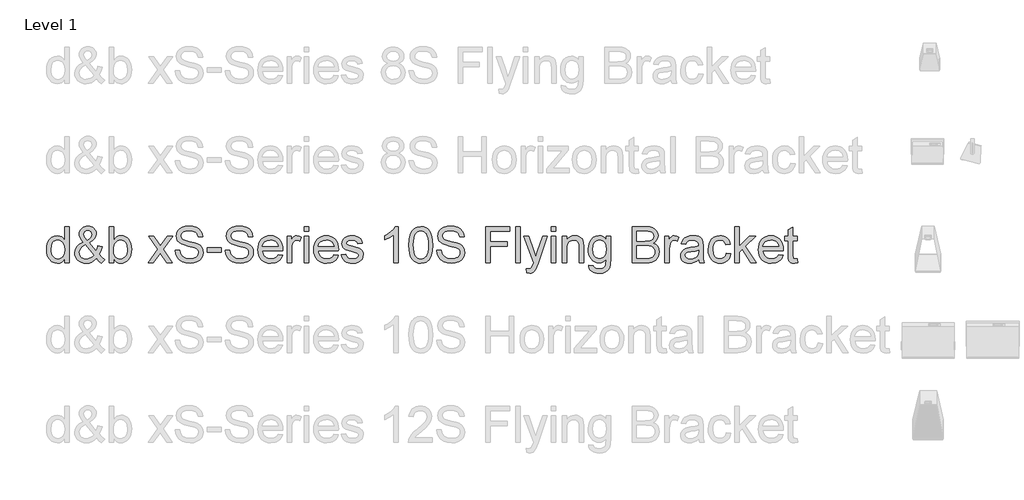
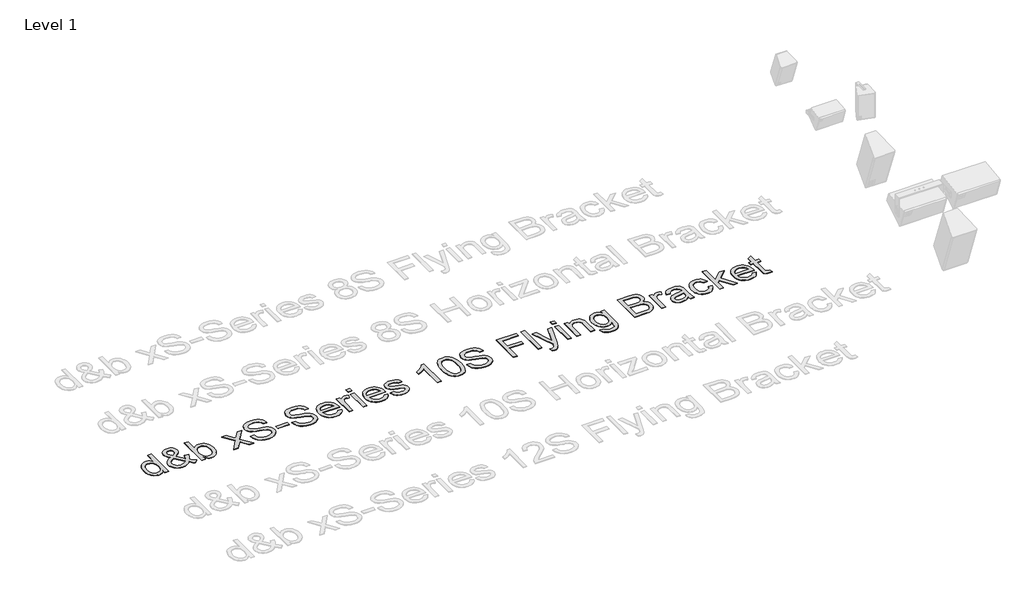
# One storey, part 37 of 55: 1 proxy.
"""IFC4 building model written with IfcOpenShell, lengths in millimetres."""

from ifc_helpers import new_model, si_unit, origin, origin_with_axes, place, context, project, spatial, polyline, outline, extrude, element, save

model = new_model("IFC4")

# Units and contexts
model_context = context("Model", 3, world=origin())
ifc_project = project(units=[si_unit("LENGTHUNIT", "METRE", prefix="MILLI")], contexts=[model_context])

# Site, building, storey
site = spatial("IfcSite", under=ifc_project)
building = spatial("IfcBuilding", under=site)
storey = spatial("IfcBuildingStorey", under=building, Name="Level 1", Elevation=0.0)

# Proxy
placement = place(None, origin())
element("IfcBuildingElementProxy", 1, Name="400mm Arial", ObjectType="400mm Arial", at=placement, inside=storey, context=model_context, shape_type="SweptSolid", body=[
    extrude(outline(polyline([(-20879.8211974, 351.3054836), (-20879.8211974, 398.6886846), (-20894.8491769, 375.2116819), (-20913.0532043, 358.4423943), (-20934.4332796, 348.3808217), (-20958.9894028, 345.0269642), (-20991.4611202, 349.8830065), (-21021.1859854, 364.4511335), (-21046.3491139, 387.7135384), (-21065.1356211, 418.6524142), (-21076.8342686, 456.0169621), (-21080.7338177, 498.5563835), (-21077.1408369, 540.5685074), (-21066.3618944, 578.5094038), (-21048.4092531, 610.2208318), (-21023.2951755, 633.5445503), (-20992.9203855, 647.8919481), (-20959.1856065, 652.674414), (-20934.6110892, 649.2531115), (-20912.8815261, 638.9892038), (-20894.4629008, 623.2561171), (-20879.8211974, 603.4272776), (-20879.8211974, 753.1307242), (-20829.5930424, 753.1307242), (-20829.5930424, 351.3054836), (-20879.8211974, 351.3054836)]), holes=[polyline([(-21030.5056627, 498.7525872), (-21029.089317, 474.3957335), (-21024.8402799, 453.3191608), (-21017.7585515, 435.5228693), (-21007.8441318, 421.0068589), (-20983.1469871, 401.6930542), (-20969.2717046, 396.864603), (-20954.3786151, 395.2551193), (-20939.415015, 396.7910266), (-20925.6225058, 401.3987486), (-20901.5507606, 419.8296365), (-20892.0440767, 433.7386416), (-20885.2535882, 450.8911397), (-20879.8211974, 494.9266145), (-20885.3516901, 543.0701049), (-20892.2648059, 561.6052261), (-20901.9431681, 576.4492646), (-20913.6448812, 587.8229496), (-20926.6280499, 595.9470104), (-20940.8926743, 600.8214468), (-20956.4387543, 602.4462589), (-20971.6261493, 600.8858262), (-20985.5014319, 596.2045278), (-20998.064602, 588.4023638), (-21009.3156597, 577.4793342), (-21018.586286, 563.1963157), (-21025.2081619, 545.3141851), (-21030.5056627, 498.7525872)])]), origin_with_axes(), (0.0, 0.0, 1.0), 5.0),
    extrude(outline(polyline([(-20523.809528, 400.9450275), (-20549.3405384, 376.4808748), (-20577.0788409, 359.00648), (-20607.0734862, 348.5218431), (-20639.3735254, 345.0269642), (-20668.6814577, 347.6144009), (-20694.8010793, 355.376711), (-20717.7323904, 368.3138945), (-20737.4753908, 386.4259514), (-20750.308341, 403.7961129), (-20759.4747341, 422.1595558), (-20764.9745699, 441.5162802), (-20766.8078485, 461.8662859), (-20760.9094739, 497.0603301), (-20743.2143499, 528.6736562), (-20713.796053, 556.6817387), (-20672.7281596, 581.0600523), (-20694.6416638, 609.4114914), (-20707.7995765, 631.8768186), (-20714.3846642, 651.0557332), (-20716.5796934, 669.5479349), (-20714.8506481, 687.1020374), (-20709.6635119, 703.4666548), (-20701.018285, 718.6417871), (-20688.9149674, 732.6274343), (-20674.1935562, 744.3444759), (-20657.6940487, 752.7137912), (-20639.4164449, 757.7353805), (-20619.3607448, 759.4092436), (-20600.212487, 757.8089569), (-20582.8913764, 753.0080968), (-20567.397413, 745.0066634), (-20553.7305969, 733.8046567), (-20542.5715097, 720.3585698), (-20534.6007332, 705.6248959), (-20529.8182672, 689.603635), (-20528.2241119, 672.2947871), (-20532.9452642, 644.31123), (-20547.108721, 618.436863), (-20570.7144823, 594.6716861), (-20603.7625482, 573.0156993), (-20531.069066, 482.4676776), (-20518.6837055, 508.3420446), (-20509.3885538, 538.0914353), (-20459.1603987, 527.2021282), (-20474.6114425, 480.6773185), (-20494.6732739, 444.5022557), (-20466.1256311, 411.1966724), (-20434.0463211, 383.6790991), (-20471.7174374, 345.0269642), (-20497.3465498, 368.47331), (-20523.809528, 400.9450275)]), holes=[polyline([(-20557.4584678, 437.1446158), (-20647.1235727, 549.0788442), (-20681.3733865, 527.2266537), (-20702.305872, 506.9931439), (-20713.0112381, 487.6670765), (-20716.5796934, 468.5372127), (-20711.6991256, 444.8456122), (-20697.0574222, 420.2710949), (-20686.2784798, 409.3266056), (-20673.4639236, 401.5091132), (-20658.6137537, 396.8186177), (-20641.7279702, 395.2551193), (-20619.0051256, 398.1736498), (-20595.5710425, 406.9292412), (-20574.1480476, 420.3201459), (-20557.4584678, 437.1446158)]), polyline([(-20629.1709314, 604.7026019), (-20602.9041569, 621.3676562), (-20587.8700461, 635.8499441), (-20580.8067117, 649.9398245), (-20578.452267, 665.4276565), (-20581.5547385, 682.9756277), (-20590.862153, 696.9674062), (-20604.829406, 706.1276679), (-20621.9113933, 709.1810885), (-20639.3612626, 706.1521934), (-20653.6473468, 697.0655081), (-20663.1754905, 683.6132898), (-20666.3515384, 667.4877957), (-20662.0350563, 649.0936959), (-20648.9875082, 628.639457), (-20629.1709314, 604.7026019)])]), origin_with_axes(), (0.0, 0.0, 1.0), 5.0),
    extrude(outline(polyline([(-20333.590011, 351.3054836), (-20383.8181661, 351.3054836), (-20383.8181661, 753.1307242), (-20333.590011, 753.1307242), (-20333.590011, 604.1139907), (-20317.0721094, 625.3591759), (-20298.4204923, 640.5343082), (-20277.6351595, 649.6393876), (-20254.7161112, 652.674414), (-20228.8417442, 649.9398245), (-20204.3898543, 641.736056), (-20182.758393, 628.5781433), (-20165.3453119, 610.9811212), (-20151.6968898, 589.116668), (-20141.3594058, 563.1564619), (-20134.8478945, 534.1796234), (-20132.6773907, 503.265273), (-20134.9245365, 467.5929822), (-20141.6659741, 436.2126481), (-20152.9017034, 409.1242705), (-20168.6317244, 386.3278495), (-20187.5132678, 368.2587122), (-20208.2035643, 355.3521855), (-20230.702614, 347.6082695), (-20255.0104168, 345.0269642), (-20278.6836232, 348.3562962), (-20299.671291, 358.3442924), (-20317.9734203, 374.9909527), (-20333.590011, 398.2962771), (-20333.590011, 351.3054836)]), holes=[polyline([(-20333.590011, 500.9108283), (-20330.1564457, 459.0213318), (-20319.8557498, 430.6698927), (-20307.6849872, 415.1759293), (-20293.5399244, 404.1088126), (-20277.4205617, 397.4685426), (-20259.3268989, 395.2551193), (-20244.3050508, 396.8860628), (-20230.3377977, 401.7788933), (-20217.4251396, 409.9336109), (-20205.5670767, 421.3502155), (-20195.6526569, 435.9980502), (-20188.5709285, 453.8464584), (-20184.3218914, 474.8954399), (-20182.9055458, 499.1449947), (-20188.3379366, 545.1057186), (-20195.1284251, 562.8989445), (-20204.6351089, 577.2340795), (-20216.0670419, 588.264408), (-20228.6332778, 596.1432141), (-20242.3338164, 600.8704977), (-20257.1686579, 602.4462589), (-20272.190506, 600.8153154), (-20286.1577591, 595.9224849), (-20299.0704171, 587.7677673), (-20310.9284801, 576.3511628), (-20320.8428999, 561.8504808), (-20327.9246283, 544.443531), (-20332.1736653, 524.1303135), (-20333.590011, 500.9108283)])]), origin_with_axes(), (0.0, 0.0, 1.0), 5.0),
    extrude(outline(polyline([(-19950.6003285, 351.3054836), (-19843.2768878, 499.7336059), (-19944.3218092, 646.3958946), (-19884.0872638, 646.3958946), (-19835.3306367, 575.6644497), (-19812.4729021, 542.4079173), (-19792.6563253, 569.6802359), (-19737.1306695, 646.3958946), (-19676.6999204, 646.3958946), (-19782.8461387, 499.635504), (-19680.623995, 351.3054836), (-19740.9566422, 351.3054836), (-19802.5646137, 440.5781811), (-19813.7482263, 456.9611926), (-19890.1695795, 351.3054836), (-19950.6003285, 351.3054836)])), origin_with_axes(), (0.0, 0.0, 1.0), 5.0),
    extrude(outline(polyline([(-19649.2313981, 489.43291), (-19599.003243, 489.43291), (-19593.2397584, 461.5597175), (-19582.8164352, 439.155704), (-19566.556051, 421.3747409), (-19543.2813835, 407.3706996), (-19514.8318425, 398.2840144), (-19483.0468381, 395.2551193), (-19455.063281, 397.5482504), (-19430.5623402, 404.4276437), (-19410.7089752, 415.3169507), (-19396.6681457, 429.6398231), (-19388.3172244, 446.0841483), (-19385.533584, 463.3378138), (-19387.6182486, 480.150021), (-19393.8722425, 494.6813598), (-19406.5764341, 507.0789831), (-19428.0116917, 517.4900435), (-19501.1466323, 536.6689582), (-19549.1552327, 549.360887), (-19579.8733793, 561.4396792), (-19604.8770922, 578.3377255), (-19622.5967416, 598.8164899), (-19633.1549549, 622.434514), (-19636.6743593, 648.7503394), (-19632.3210891, 678.1686363), (-19619.2612782, 705.6003704), (-19597.8382834, 728.8505125), (-19568.395461, 745.7240333), (-19533.054264, 755.987941), (-19493.9361452, 759.4092436), (-19451.5561394, 755.8285255), (-19414.4736342, 745.0863712), (-19384.013005, 727.40351), (-19361.4986269, 703.000671), (-19347.249331, 673.3984331), (-19341.5839483, 640.1173753), (-19391.8121033, 640.1173753), (-19401.0336787, 670.0874951), (-19409.3968627, 681.9455581), (-19420.2616443, 691.7189564), (-19450.3053406, 704.8155555), (-19491.9741079, 709.1810885), (-19534.6238939, 704.8646064), (-19550.9271976, 699.4690038), (-19563.8827752, 691.9151602), (-19580.805347, 672.8588728), (-19586.4462043, 650.2218674), (-19582.4485532, 630.9203254), (-19570.4556002, 615.3957052), (-19542.1041611, 601.5142912), (-19488.4424407, 587.3385717), (-19433.0639377, 573.8740907), (-19399.5621507, 562.1263923), (-19370.9286687, 543.9039708), (-19350.9526764, 521.4141181), (-19339.2172408, 494.902089), (-19335.3054289, 464.6131381), (-19339.805852, 433.6497368), (-19353.3071212, 404.5257455), (-19375.2574136, 379.4607189), (-19405.1049061, 360.6742117), (-19440.9979261, 348.9387761), (-19481.0848008, 345.0269642), (-19530.2951491, 349.2453444), (-19570.7989567, 361.900485), (-19603.0622077, 383.041437), (-19627.5508858, 412.7172513), (-19643.2717098, 448.8677887), (-19649.2313981, 489.43291)])), origin_with_axes(), (0.0, 0.0, 1.0), 5.0),
    extrude(outline(polyline([(-19291.3557932, 470.5973519), (-19291.3557932, 520.825507), (-19134.3928086, 520.825507), (-19134.3928086, 470.5973519), (-19291.3557932, 470.5973519)])), origin_with_axes(), (0.0, 0.0, 1.0), 5.0),
    extrude(outline(polyline([(-19090.4431729, 489.43291), (-19040.2150178, 489.43291), (-19034.4515332, 461.5597175), (-19024.02821, 439.155704), (-19007.7678258, 421.3747409), (-18984.4931583, 407.3706996), (-18956.0436173, 398.2840144), (-18924.2586129, 395.2551193), (-18896.2750558, 397.5482504), (-18871.774115, 404.4276437), (-18851.9207499, 415.3169507), (-18837.8799205, 429.6398231), (-18829.5289992, 446.0841483), (-18826.7453587, 463.3378138), (-18828.8300234, 480.150021), (-18835.0840173, 494.6813598), (-18847.7882089, 507.0789831), (-18869.2234665, 517.4900435), (-18942.3584071, 536.6689582), (-18990.3670075, 549.360887), (-19021.0851541, 561.4396792), (-19046.088867, 578.3377255), (-19063.8085164, 598.8164899), (-19074.3667297, 622.434514), (-19077.8861341, 648.7503394), (-19073.5328638, 678.1686363), (-19060.473053, 705.6003704), (-19039.0500582, 728.8505125), (-19009.6072358, 745.7240333), (-18974.2660388, 755.987941), (-18935.14792, 759.4092436), (-18892.7679141, 755.8285255), (-18855.685409, 745.0863712), (-18825.2247798, 727.40351), (-18802.7104017, 703.000671), (-18788.4611058, 673.3984331), (-18782.7957231, 640.1173753), (-18833.0238781, 640.1173753), (-18842.2454535, 670.0874951), (-18850.6086375, 681.9455581), (-18861.4734191, 691.7189564), (-18891.5171154, 704.8155555), (-18933.1858827, 709.1810885), (-18975.8356687, 704.8646064), (-18992.1389724, 699.4690038), (-19005.09455, 691.9151602), (-19022.0171218, 672.8588728), (-19027.657979, 650.2218674), (-19023.660328, 630.9203254), (-19011.667375, 615.3957052), (-18983.3159359, 601.5142912), (-18929.6542155, 587.3385717), (-18874.2757125, 573.8740907), (-18840.7739255, 562.1263923), (-18812.1404435, 543.9039708), (-18792.1644512, 521.4141181), (-18780.4290156, 494.902089), (-18776.5172037, 464.6131381), (-18781.0176267, 433.6497368), (-18794.518896, 404.5257455), (-18816.4691883, 379.4607189), (-18846.3166809, 360.6742117), (-18882.2097009, 348.9387761), (-18922.2965756, 345.0269642), (-18971.5069238, 349.2453444), (-19012.0107315, 361.900485), (-19044.2739825, 383.041437), (-19068.7626606, 412.7172513), (-19084.4834846, 448.8677887), (-19090.4431729, 489.43291)])), origin_with_axes(), (0.0, 0.0, 1.0), 5.0),
    extrude(outline(polyline([(-18500.850962, 439.204755), (-18451.6038255, 432.9262356), (-18459.1546035, 413.2016293), (-18469.3480004, 395.819205), (-18482.1840164, 380.7789628), (-18497.6626513, 368.0809026), (-18515.6244897, 357.9948045), (-18535.9101161, 350.7904488), (-18583.4527326, 345.0269642), (-18614.618469, 347.5132333), (-18642.3874282, 354.9720408), (-18666.7596104, 367.4033865), (-18687.7350155, 384.8072706), (-18704.602405, 406.699315), (-18716.6505403, 432.5951418), (-18723.8794215, 462.4947509), (-18726.2890486, 496.3981425), (-18723.8548961, 531.4511652), (-18716.5524385, 562.3471215), (-18704.3816758, 589.0860112), (-18687.342608, 611.6678343), (-18666.4223852, 629.6082129), (-18642.6081574, 642.4227691), (-18615.8999246, 650.1115028), (-18586.2976867, 652.674414), (-18557.6488763, 650.1176342), (-18531.7407868, 642.4472946), (-18508.5734182, 629.6633952), (-18488.1467704, 611.7659362), (-18471.472519, 589.233164), (-18459.5623394, 562.5433252), (-18452.4162316, 531.6964199), (-18450.0341957, 496.6924481), (-18450.3285013, 483.1543906), (-18676.0608935, 483.1543906), (-18673.1515601, 463.1109533), (-18667.3666157, 445.5568507), (-18658.7060604, 430.492083), (-18647.1698942, 417.9166502), (-18633.3957791, 408.0022304), (-18618.0213774, 400.920502), (-18582.4717139, 395.2551193), (-18555.7389556, 397.8793442), (-18533.2245775, 405.7520189), (-18514.9285796, 419.3636527), (-18500.850962, 439.204755)]), holes=[polyline([(-18676.0608935, 533.3825457), (-18500.2623508, 533.3825457), (-18507.0559049, 559.9191003), (-18520.3732332, 578.9018113), (-18534.0707061, 589.2025071), (-18549.65664, 596.560147), (-18567.1310348, 600.974731), (-18586.4938904, 602.4462589), (-18620.3512967, 597.7496321), (-18648.3471166, 583.6597517), (-18667.8080741, 561.6971966), (-18676.0608935, 533.3825457)])]), origin_with_axes(), (0.0, 0.0, 1.0), 5.0),
    extrude(outline(polyline([(-18399.8060406, 351.3054836), (-18399.8060406, 646.3958946), (-18355.8564049, 646.3958946), (-18355.8564049, 602.7405645), (-18339.6205462, 628.0508458), (-18324.6600117, 642.9623293), (-18309.6504263, 650.2463929), (-18293.2674148, 652.674414), (-18268.2514391, 648.7993903), (-18242.843056, 637.1743193), (-18259.618475, 592.1455631), (-18277.2768108, 599.871085), (-18294.9351465, 602.4462589), (-18309.9324692, 599.9691868), (-18323.3356365, 592.5379705), (-18334.1636299, 580.7166958), (-18341.4354307, 565.0694482), (-18347.5422718, 537.0123147), (-18349.5778855, 506.4045327), (-18349.5778855, 351.3054836), (-18399.8060406, 351.3054836)])), origin_with_axes(), (0.0, 0.0, 1.0), 5.0),
    extrude(outline(polyline([(-18211.4504591, 702.9025691), (-18211.4504591, 753.1307242), (-18161.222304, 753.1307242), (-18161.222304, 702.9025691), (-18211.4504591, 702.9025691)])), origin_with_axes(), (0.0, 0.0, 1.0), 5.0),
    extrude(outline(polyline([(-18211.4504591, 351.3054836), (-18211.4504591, 646.3958946), (-18161.222304, 646.3958946), (-18161.222304, 351.3054836), (-18211.4504591, 351.3054836)])), origin_with_axes(), (0.0, 0.0, 1.0), 5.0),
    extrude(outline(polyline([(-17879.2775429, 439.204755), (-17830.0304065, 432.9262356), (-17837.5811844, 413.2016293), (-17847.7745814, 395.819205), (-17860.6105973, 380.7789628), (-17876.0892323, 368.0809026), (-17894.0510707, 357.9948045), (-17914.336697, 350.7904488), (-17961.8793136, 345.0269642), (-17993.0450499, 347.5132333), (-18020.8140092, 354.9720408), (-18045.1861914, 367.4033865), (-18066.1615965, 384.8072706), (-18083.0289859, 406.699315), (-18095.0771213, 432.5951418), (-18102.3060025, 462.4947509), (-18104.7156295, 496.3981425), (-18102.281477, 531.4511652), (-18094.9790194, 562.3471215), (-18082.8082567, 589.0860112), (-18065.769189, 611.6678343), (-18044.8489662, 629.6082129), (-18021.0347384, 642.4227691), (-17994.3265055, 650.1115028), (-17964.7242676, 652.674414), (-17936.0754573, 650.1176342), (-17910.1673678, 642.4472946), (-17886.9999991, 629.6633952), (-17866.5733513, 611.7659362), (-17849.8990999, 589.233164), (-17837.9889203, 562.5433252), (-17830.8428126, 531.6964199), (-17828.4607766, 496.6924481), (-17828.7550822, 483.1543906), (-18054.4874745, 483.1543906), (-18051.578141, 463.1109533), (-18045.7931967, 445.5568507), (-18037.1326413, 430.492083), (-18025.5964751, 417.9166502), (-18011.8223601, 408.0022304), (-17996.4479584, 400.920502), (-17960.8982949, 395.2551193), (-17934.1655366, 397.8793442), (-17911.6511585, 405.7520189), (-17893.3551606, 419.3636527), (-17879.2775429, 439.204755)]), holes=[polyline([(-18054.4874745, 533.3825457), (-17878.6889317, 533.3825457), (-17885.4824859, 559.9191003), (-17898.7998141, 578.9018113), (-17912.4972871, 589.2025071), (-17928.0832209, 596.560147), (-17945.5576157, 600.974731), (-17964.9204714, 602.4462589), (-17998.7778777, 597.7496321), (-18026.7736975, 583.6597517), (-18046.234655, 561.6971966), (-18054.4874745, 533.3825457)])]), origin_with_axes(), (0.0, 0.0, 1.0), 5.0),
    extrude(outline(polyline([(-17797.0681797, 439.204755), (-17746.8400246, 445.4832743), (-17738.918299, 423.9989658), (-17723.5898825, 408.2045655), (-17700.7566734, 398.4924808), (-17670.3205696, 395.2551193), (-17640.2523479, 398.2227007), (-17619.1113959, 407.125445), (-17606.6034081, 420.0258403), (-17602.4340788, 434.9863747), (-17606.6279335, 447.7886682), (-17619.2094978, 457.5498038), (-17670.9091808, 471.8726761), (-17746.545719, 496.4471934), (-17765.6878455, 508.7957657), (-17779.5569967, 525.141989), (-17787.9814944, 544.443531), (-17790.7896603, 565.6580594), (-17788.5333174, 585.119017), (-17781.7642887, 603.0839211), (-17771.0957109, 618.8415332), (-17757.1407205, 631.6806148), (-17725.2085633, 646.5430474), (-17704.3251287, 651.1415724), (-17681.9946916, 652.674414), (-17649.302245, 650.2096047), (-17620.8772295, 642.8151766), (-17598.0194949, 631.214631), (-17582.0288908, 616.1314692), (-17571.4338893, 596.4497824), (-17564.7629625, 571.053662), (-17614.9911176, 564.7751426), (-17621.3309506, 580.5818057), (-17633.8757267, 592.4889196), (-17652.748073, 599.9569241), (-17678.070617, 602.4462589), (-17706.9125654, 600.0672887), (-17726.140531, 592.930378), (-17736.9562617, 582.6296821), (-17740.5615053, 570.7593564), (-17734.5772915, 556.1421785), (-17715.8398352, 545.0566677), (-17672.5769125, 534.3635644), (-17598.8533607, 510.7210148), (-17579.3801404, 499.4147748), (-17564.6158097, 483.9392056), (-17555.3083952, 464.2452561), (-17552.2059237, 440.2838755), (-17555.8479555, 415.5131545), (-17566.7740507, 392.2139614), (-17584.5672766, 372.2134436), (-17608.8107, 357.3387483), (-17638.0941069, 348.1049102), (-17671.0072827, 345.0269642), (-17698.040478, 346.5107549), (-17721.6523707, 350.962127), (-17741.8429609, 358.3810806), (-17758.6122485, 368.7676156), (-17772.3097214, 382.0726811), (-17783.2848676, 398.2472262), (-17791.5376871, 417.2912508), (-17797.0681797, 439.204755)])), origin_with_axes(), (0.0, 0.0, 1.0), 5.0),
    extrude(outline(polyline([(-17162.9377219, 351.3054836), (-17213.165877, 351.3054836), (-17213.165877, 664.4466379), (-17234.1351507, 647.4872779), (-17260.7452817, 630.5524434), (-17313.6221871, 605.1931112), (-17313.6221871, 652.674414), (-17274.1729745, 674.1341971), (-17239.9967371, 699.6652075), (-17213.0555124, 726.8148988), (-17195.3113375, 753.1307242), (-17162.9377219, 753.1307242), (-17162.9377219, 351.3054836)])), origin_with_axes(), (0.0, 0.0, 1.0), 5.0),
    extrude(outline(polyline([(-17043.6458536, 548.9807423), (-17039.9547709, 613.2987778), (-17028.8815229, 664.5937907), (-17010.536474, 703.6505958), (-16998.678411, 718.8839761), (-16985.029989, 731.2540082), (-16969.5452227, 740.8250714), (-16952.1781269, 747.6615452), (-16911.7969465, 753.1307242), (-16880.845808, 749.8933626), (-16853.132031, 740.1812779), (-16829.9554653, 724.3746149), (-16812.6159606, 702.8535182), (-16799.5193616, 675.8019288), (-16789.0715129, 643.4037877), (-16782.2289078, 602.2623179), (-16779.9480394, 548.9807423), (-16783.6023339, 485.0305888), (-16794.5652174, 433.8582033), (-16812.7999016, 394.7646099), (-16824.6303734, 379.4852444), (-16838.2695984, 367.050833), (-16853.7727588, 357.4153904), (-16871.195037, 350.5329314), (-16911.7969465, 345.0269642), (-16939.4616726, 347.4181972), (-16963.9871389, 354.5918961), (-16985.3733456, 366.5480609), (-17003.6202925, 383.2866917), (-17021.1314755, 413.5449858), (-17033.6394633, 451.2467589), (-17041.144256, 496.3920111), (-17043.6458536, 548.9807423)]), holes=[polyline([(-16993.4176985, 549.0788442), (-16991.9461705, 505.414317), (-16987.5315866, 470.0700543), (-16980.1739467, 443.0460561), (-16969.8732508, 424.3423223), (-16957.4143139, 411.616671), (-16943.5819509, 402.52692), (-16928.3761618, 397.0730695), (-16911.7969465, 395.2551193), (-16895.2177313, 397.0792008), (-16880.0119421, 402.5514455), (-16866.1795791, 411.6718533), (-16853.7206422, 424.4404242), (-16843.4199463, 443.1748148), (-16836.0623064, 470.1926817), (-16831.6477225, 505.4940248), (-16830.1761945, 549.0788442), (-16831.5986716, 591.5876087), (-16835.8661027, 626.3095377), (-16842.978488, 653.2446311), (-16852.9358273, 672.392889), (-16865.1862977, 685.740874), (-16879.1780763, 695.2751491), (-16894.9111629, 700.9957141), (-16912.3855577, 702.9025691), (-16928.8789338, 701.2225747), (-16943.8272056, 696.1825913), (-16957.2303729, 687.7826191), (-16969.0884359, 676.022658), (-16979.7324883, 655.1760116), (-16987.3353829, 627.0698272), (-16991.8971196, 591.7041047), (-16993.4176985, 549.0788442)])]), origin_with_axes(), (0.0, 0.0, 1.0), 5.0),
    extrude(outline(polyline([(-16735.9984038, 489.43291), (-16685.7702487, 489.43291), (-16680.0067641, 461.5597175), (-16669.5834409, 439.155704), (-16653.3230567, 421.3747409), (-16630.0483891, 407.3706996), (-16601.5988482, 398.2840144), (-16569.8138438, 395.2551193), (-16541.8302867, 397.5482504), (-16517.3293458, 404.4276437), (-16497.4759808, 415.3169507), (-16483.4351513, 429.6398231), (-16475.08423, 446.0841483), (-16472.3005896, 463.3378138), (-16474.3852543, 480.150021), (-16480.6392482, 494.6813598), (-16493.3434397, 507.0789831), (-16514.7786973, 517.4900435), (-16587.913638, 536.6689582), (-16635.9222383, 549.360887), (-16666.6403849, 561.4396792), (-16691.6440979, 578.3377255), (-16709.3637473, 598.8164899), (-16719.9219606, 622.434514), (-16723.441365, 648.7503394), (-16719.0880947, 678.1686363), (-16706.0282839, 705.6003704), (-16684.605289, 728.8505125), (-16655.1624667, 745.7240333), (-16619.8212697, 755.987941), (-16580.7031509, 759.4092436), (-16538.323145, 755.8285255), (-16501.2406399, 745.0863712), (-16470.7800107, 727.40351), (-16448.2656326, 703.000671), (-16434.0163367, 673.3984331), (-16428.3509539, 640.1173753), (-16478.579109, 640.1173753), (-16487.8006843, 670.0874951), (-16496.1638684, 681.9455581), (-16507.02865, 691.7189564), (-16537.0723462, 704.8155555), (-16578.7411136, 709.1810885), (-16621.3908995, 704.8646064), (-16637.6942033, 699.4690038), (-16650.6497809, 691.9151602), (-16667.5723527, 672.8588728), (-16673.2132099, 650.2218674), (-16669.2155589, 630.9203254), (-16657.2226059, 615.3957052), (-16628.8711668, 601.5142912), (-16575.2094464, 587.3385717), (-16519.8309434, 573.8740907), (-16486.3291564, 562.1263923), (-16457.6956744, 543.9039708), (-16437.7196821, 521.4141181), (-16425.9842464, 494.902089), (-16422.0724345, 464.6131381), (-16426.5728576, 433.6497368), (-16440.0741268, 404.5257455), (-16462.0244192, 379.4607189), (-16491.8719118, 360.6742117), (-16527.7649318, 348.9387761), (-16567.8518065, 345.0269642), (-16617.0621547, 349.2453444), (-16657.5659624, 361.900485), (-16689.8292134, 383.041437), (-16714.3178915, 412.7172513), (-16730.0387154, 448.8677887), (-16735.9984038, 489.43291)])), origin_with_axes(), (0.0, 0.0, 1.0), 5.0),
    extrude(outline(polyline([(-16189.7672173, 351.3054836), (-16189.7672173, 753.1307242), (-15919.7908838, 753.1307242), (-15919.7908838, 702.9025691), (-16139.5390622, 702.9025691), (-16139.5390622, 583.6107008), (-15951.1834807, 583.6107008), (-15951.1834807, 533.3825457), (-16139.5390622, 533.3825457), (-16139.5390622, 351.3054836), (-16189.7672173, 351.3054836)])), origin_with_axes(), (0.0, 0.0, 1.0), 5.0),
    extrude(outline(polyline([(-15857.0056899, 351.3054836), (-15857.0056899, 753.1307242), (-15806.7775349, 753.1307242), (-15806.7775349, 351.3054836), (-15857.0056899, 351.3054836)])), origin_with_axes(), (0.0, 0.0, 1.0), 5.0),
    extrude(outline(polyline([(-15731.4353023, 238.2921347), (-15737.7138216, 286.6563543), (-15712.2073366, 282.2417703), (-15698.7919066, 283.6274592), (-15688.3685834, 287.7845257), (-15673.7514054, 303.2355695), (-15660.0171443, 340.2199728), (-15656.0930696, 352.3846041), (-15762.8278992, 646.3958946), (-15709.9509937, 646.3958946), (-15653.2481156, 482.4676776), (-15633.5296406, 416.9356315), (-15613.8111657, 474.913834), (-15555.6367595, 646.3958946), (-15503.1522615, 646.3958946), (-15605.8649146, 344.2421493), (-15632.548622, 278.7101032), (-15646.2093067, 257.7898804), (-15661.684876, 243.2953298), (-15679.6375173, 234.8340439), (-15700.7294184, 232.0136153), (-15731.4353023, 238.2921347)])), origin_with_axes(), (0.0, 0.0, 1.0), 5.0),
    extrude(outline(polyline([(-15461.4589687, 351.3054836), (-15461.4589687, 646.3958946), (-15411.2308137, 646.3958946), (-15411.2308137, 351.3054836), (-15461.4589687, 351.3054836)])), origin_with_axes(), (0.0, 0.0, 1.0), 5.0),
    extrude(outline(polyline([(-15461.4589687, 702.9025691), (-15461.4589687, 753.1307242), (-15411.2308137, 753.1307242), (-15411.2308137, 702.9025691), (-15461.4589687, 702.9025691)])), origin_with_axes(), (0.0, 0.0, 1.0), 5.0),
    extrude(outline(polyline([(-15335.888581, 351.3054836), (-15335.888581, 646.3958946), (-15285.660426, 646.3958946), (-15285.660426, 605.1931112), (-15268.2105567, 625.9661812), (-15247.2535457, 640.8040883), (-15222.789393, 649.7068326), (-15194.8180986, 652.674414), (-15170.0596404, 650.2831811), (-15147.3858467, 643.1094821), (-15128.4767122, 632.0484968), (-15115.0122311, 617.9954046), (-15105.8764949, 600.9869937), (-15099.9535948, 581.0600523), (-15097.3048444, 532.4996289), (-15097.3048444, 351.3054836), (-15147.5329995, 351.3054836), (-15147.5329995, 525.7306002), (-15148.980002, 551.7030691), (-15153.3210096, 570.1707452), (-15161.3285743, 583.4022343), (-15173.7752485, 593.666142), (-15189.7290644, 600.2512297), (-15208.2580542, 602.4462589), (-15237.6763511, 597.5166402), (-15262.7536404, 582.727784), (-15272.7753591, 570.6551232), (-15279.9337296, 554.1556157), (-15284.2287519, 533.2292616), (-15285.660426, 507.8760607), (-15285.660426, 351.3054836), (-15335.888581, 351.3054836)])), origin_with_axes(), (0.0, 0.0, 1.0), 5.0),
    extrude(outline(polyline([(-15040.79817, 326.191406), (-14990.5700149, 319.9128867), (-14985.0272595, 304.2165882), (-14974.2851053, 293.425383), (-14953.1686787, 285.0376735), (-14925.5284782, 282.2417703), (-14896.0488676, 285.4055555), (-14874.1231007, 294.896911), (-14858.9173116, 310.1027001), (-14849.5976344, 330.4097862), (-14846.1640691, 388.9765999), (-14862.8781744, 372.4954865), (-14881.5297915, 360.7232626), (-14902.1189205, 353.6599283), (-14924.6455614, 351.3054836), (-14952.1845944, 354.0462044), (-14976.4310836, 362.268367), (-14997.3850289, 375.9719713), (-15015.0464303, 395.1570174), (-15029.0596687, 418.1741676), (-15039.0691246, 443.3740842), (-15045.0747982, 470.7567674), (-15047.0766894, 500.3222171), (-15043.4837085, 540.8750757), (-15032.7047661, 578.1660473), (-15015.1200067, 609.7671107), (-14991.1095752, 633.2502447), (-14961.4950746, 647.8183717), (-14927.098108, 652.674414), (-14903.6088426, 649.9275618), (-14882.290081, 641.6870051), (-14863.1418231, 627.9527439), (-14846.1640691, 608.7247783), (-14846.1640691, 646.3958946), (-14795.935914, 646.3958946), (-14795.935914, 391.6253502), (-14799.3694793, 332.8010192), (-14809.6701751, 294.0630451), (-14827.41435, 268.3726191), (-14853.1783524, 248.6909324), (-14886.3980966, 236.1829445), (-14926.5094968, 232.0136153), (-14951.1177366, 233.4820776), (-14973.2427729, 237.8874645), (-14992.8846058, 245.2297759), (-15010.0432352, 255.509012), (-15023.9031894, 268.7374354), (-15033.6489965, 284.9273089), (-15039.2806568, 304.0786324), (-15040.79817, 326.191406)]), holes=[polyline([(-14996.8485343, 503.7557824), (-14991.4897199, 457.6846938), (-14984.7912019, 440.0478179), (-14975.4132767, 426.0100541), (-14964.0120005, 415.3016223), (-14951.2434296, 407.6527425), (-14937.107564, 403.0634146), (-14921.6044035, 401.5336386), (-14906.2545273, 403.0542176), (-14892.1861067, 407.6159543), (-14879.3991416, 415.2188489), (-14867.8936322, 425.8629013), (-14858.3869484, 439.7627093), (-14851.5964599, 457.1328709), (-14846.1640691, 502.2842544), (-14851.7558754, 545.8292199), (-14858.7456333, 563.0307688), (-14868.5312944, 577.1850286), (-14880.2851241, 588.2368169), (-14893.1793881, 596.1309514), (-14907.2140862, 600.8674321), (-14922.3892185, 602.4462589), (-14937.3098991, 600.8919575), (-14951.0717514, 596.2290532), (-14975.1189711, 577.5774361), (-14984.625655, 563.6377741), (-14991.4161435, 546.6876112), (-14996.8485343, 503.7557824)])]), origin_with_axes(), (0.0, 0.0, 1.0), 5.0),
    extrude(outline(polyline([(-14557.3521774, 351.3054836), (-14557.3521774, 753.1307242), (-14404.0189618, 753.1307242), (-14361.8474224, 750.1754055), (-14328.9219838, 741.3094494), (-14303.685279, 726.3121267), (-14284.5799407, 704.9627083), (-14272.5501995, 679.8486307), (-14268.5402857, 653.5573308), (-14271.9125373, 629.3629583), (-14282.0292922, 606.6155882), (-14298.9641267, 586.7131723), (-14322.7906173, 571.053662), (-14294.3288136, 556.1912294), (-14273.2982262, 533.5787494), (-14260.3119917, 504.7122756), (-14255.9832469, 471.0878612), (-14258.9385656, 443.0675159), (-14267.8045217, 417.0827843), (-14281.0360108, 394.9853391), (-14297.0879285, 378.6268531), (-14316.7450898, 366.7810528), (-14340.7923096, 358.2216651), (-14370.0144027, 353.0345289), (-14405.1961842, 351.3054836), (-14557.3521774, 351.3054836)]), holes=[polyline([(-14507.1240223, 401.5336386), (-14404.1170637, 401.5336386), (-14366.8383548, 403.495676), (-14335.2986051, 414.4340339), (-14323.722585, 423.8640758), (-14314.4029078, 436.7522083), (-14308.2592785, 452.5220832), (-14306.211402, 470.5973519), (-14308.6148977, 491.5911511), (-14315.8253848, 509.6418943), (-14328.4192118, 523.7563002), (-14346.9727271, 532.9410873), (-14373.2517643, 537.9810707), (-14409.0221569, 539.6610651), (-14507.1240223, 539.6610651), (-14507.1240223, 401.5336386)]), polyline([(-14507.1240223, 589.8892202), (-14415.3987782, 589.8892202), (-14361.8351597, 594.2057023), (-14343.0854407, 601.6491813), (-14329.6086969, 612.7960057), (-14321.4785048, 627.4744974), (-14318.7684408, 645.5129778), (-14321.2945638, 663.0241608), (-14328.8729329, 678.2790009), (-14341.1601916, 690.1861148), (-14357.8129832, 697.6541193), (-14383.3685191, 701.5904566), (-14422.3640106, 702.9025691), (-14507.1240223, 702.9025691), (-14507.1240223, 589.8892202)])]), origin_with_axes(), (0.0, 0.0, 1.0), 5.0),
    extrude(outline(polyline([(-14193.1980531, 351.3054836), (-14193.1980531, 646.3958946), (-14149.2484174, 646.3958946), (-14149.2484174, 602.7405645), (-14133.0125587, 628.0508458), (-14118.0520242, 642.9623293), (-14103.0424388, 650.2463929), (-14086.6594273, 652.674414), (-14061.6434516, 648.7993903), (-14036.2350685, 637.1743193), (-14053.0104875, 592.1455631), (-14070.6688232, 599.871085), (-14088.327159, 602.4462589), (-14103.3244817, 599.9691868), (-14116.727649, 592.5379705), (-14127.5556424, 580.7166958), (-14134.8274432, 565.0694482), (-14140.9342843, 537.0123147), (-14142.969898, 506.4045327), (-14142.969898, 351.3054836), (-14193.1980531, 351.3054836)])), origin_with_axes(), (0.0, 0.0, 1.0), 5.0),
    extrude(outline(polyline([(-13816.48689, 388.9765999), (-13840.4850589, 368.3997336), (-13865.1944662, 354.9352526), (-13891.1791978, 347.5040363), (-13919.0033394, 345.0269642), (-13941.367499, 346.5168863), (-13960.978675, 350.9866525), (-13977.8368674, 358.4362629), (-13991.9420763, 368.8657175), (-14003.0797037, 381.6128286), (-14011.0351518, 396.0154087), (-14015.8084207, 412.0734578), (-14017.3995103, 429.7869759), (-14014.9960146, 450.6090968), (-14007.7855275, 469.5182314), (-13996.6632285, 485.7050391), (-13982.5242972, 498.3601798), (-13965.9082937, 507.9251117), (-13947.3547785, 514.8412932), (-13903.8956521, 522.3951368), (-13852.5393256, 530.3413879), (-13816.7811956, 539.6610651), (-13816.48689, 550.8446778), (-13819.9449808, 573.260954), (-13830.3192531, 587.9271829), (-13853.5203442, 598.8164899), (-13885.8449089, 602.4462589), (-13915.7659778, 600.0305005), (-13936.6616751, 592.7832252), (-13950.9109711, 579.3800578), (-13960.8928359, 558.4966233), (-14011.1209909, 564.7751426), (-14002.4021877, 592.2436649), (-13989.3914278, 613.8260753), (-13970.8747007, 630.3317142), (-13945.6379958, 642.5699219), (-13914.7726964, 650.148291), (-13879.3701857, 652.674414), (-13845.4146776, 650.4425966), (-13818.4979783, 643.7471443), (-13798.2031549, 633.6794403), (-13784.1132745, 621.330868), (-13774.7690718, 606.0637652), (-13768.7112816, 587.2404698), (-13766.258735, 543.2908341), (-13766.258735, 480.7999459), (-13763.7080865, 393.5383366), (-13753.7016962, 351.3054836), (-13803.9298513, 351.3054836), (-13811.9742042, 368.7676156), (-13816.48689, 388.9765999)]), holes=[polyline([(-13816.48689, 489.43291), (-13850.2339317, 481.069726), (-13897.5190308, 474.0309172), (-13940.7329025, 465.8884623), (-13951.9778289, 460.3211815), (-13960.3042247, 452.6447105), (-13965.4545726, 443.4476606), (-13967.1713553, 433.318643), (-13963.4312216, 418.382634), (-13952.2108208, 406.1444263), (-13933.7554074, 397.977446), (-13908.310236, 395.2551193), (-13881.3322231, 398.2594889), (-13857.4934698, 407.2725978), (-13838.1674023, 420.5531378), (-13824.7274467, 436.3598009), (-13818.7677584, 452.6447105), (-13816.7811956, 475.2081395), (-13816.48689, 489.43291)])]), origin_with_axes(), (0.0, 0.0, 1.0), 5.0),
    extrude(outline(polyline([(-13508.8394402, 458.0403131), (-13458.6112851, 451.7617937), (-13464.0743328, 428.0609962), (-13472.6153264, 407.0886568), (-13484.2342661, 388.8447755), (-13498.9311518, 373.3293524), (-13516.0867155, 360.9470575), (-13535.0816892, 352.1025612), (-13555.9160729, 346.7958634), (-13578.5898665, 345.0269642), (-13606.7604303, 347.4948392), (-13632.0185949, 354.8984644), (-13654.3643604, 367.2378396), (-13673.7977268, 384.512965), (-13689.5277478, 406.398878), (-13700.7634771, 432.5706163), (-13707.5049146, 463.0281798), (-13709.7520605, 497.7715686), (-13705.913825, 542.469231), (-13694.3991186, 581.2072051), (-13675.0240002, 612.4894374), (-13647.6045288, 634.8198745), (-13614.8017175, 648.2107791), (-13579.2765795, 652.674414), (-13556.9921277, 651.1415724), (-13536.83526, 646.5430474), (-13518.8059766, 638.8788392), (-13502.9042773, 628.1489477), (-13489.3999424, 614.5986275), (-13478.562752, 598.4731334), (-13470.392706, 579.7724653), (-13464.8898045, 558.4966233), (-13515.1179596, 552.2181039), (-13524.2291703, 574.1316081), (-13538.4171526, 589.8401692), (-13556.8970915, 599.2947365), (-13578.8841721, 602.4462589), (-13595.950831, 600.8950232), (-13611.3436268, 596.241316), (-13625.0625595, 588.4851372), (-13637.1076292, 577.626487), (-13646.91475, 563.4139793), (-13653.9198364, 545.596228), (-13658.1228882, 524.1732331), (-13659.5239054, 499.1449947), (-13654.0424637, 452.0683621), (-13647.1906615, 434.1310491), (-13637.5981385, 419.9277384), (-13625.7921922, 409.1334675), (-13612.30012, 401.423274), (-13597.121922, 396.797158), (-13580.2575982, 395.2551193), (-13554.2483411, 399.1056175), (-13532.9234482, 410.6571121), (-13517.4110907, 430.2039088), (-13508.8394402, 458.0403131)])), origin_with_axes(), (0.0, 0.0, 1.0), 5.0),
    extrude(outline(polyline([(-13414.6616494, 351.3054836), (-13414.6616494, 753.1307242), (-13364.4334944, 753.1307242), (-13364.4334944, 537.2085185), (-13251.8125529, 646.3958946), (-13182.3564322, 646.3958946), (-13296.4489017, 535.8350924), (-13176.0779128, 351.3054836), (-13234.7428283, 351.3054836), (-13332.4522862, 500.9108283), (-13364.4334944, 469.812537), (-13364.4334944, 351.3054836), (-13414.6616494, 351.3054836)])), origin_with_axes(), (0.0, 0.0, 1.0), 5.0),
    extrude(outline(polyline([(-12925.5257486, 439.204755), (-12876.2786122, 432.9262356), (-12883.8293902, 413.2016293), (-12894.0227871, 395.819205), (-12906.8588031, 380.7789628), (-12922.337438, 368.0809026), (-12940.2992764, 357.9948045), (-12960.5849028, 350.7904488), (-13008.1275193, 345.0269642), (-13039.2932557, 347.5132333), (-13067.0622149, 354.9720408), (-13091.4343971, 367.4033865), (-13112.4098022, 384.8072706), (-13129.2771917, 406.699315), (-13141.325327, 432.5951418), (-13148.5542082, 462.4947509), (-13150.9638353, 496.3981425), (-13148.5296828, 531.4511652), (-13141.2272252, 562.3471215), (-13129.0564625, 589.0860112), (-13112.0173947, 611.6678343), (-13091.0971719, 629.6082129), (-13067.2829441, 642.4227691), (-13040.5747113, 650.1115028), (-13010.9724734, 652.674414), (-12982.323663, 650.1176342), (-12956.4155735, 642.4472946), (-12933.2482049, 629.6633952), (-12912.8215571, 611.7659362), (-12896.1473057, 589.233164), (-12884.2371261, 562.5433252), (-12877.0910183, 531.6964199), (-12874.7089824, 496.6924481), (-12875.003288, 483.1543906), (-13100.7356802, 483.1543906), (-13097.8263468, 463.1109533), (-13092.0414024, 445.5568507), (-13083.3808471, 430.492083), (-13071.8446809, 417.9166502), (-13058.0705658, 408.0022304), (-13042.6961641, 400.920502), (-13007.1465006, 395.2551193), (-12980.4137423, 397.8793442), (-12957.8993642, 405.7520189), (-12939.6033663, 419.3636527), (-12925.5257486, 439.204755)]), holes=[polyline([(-13100.7356802, 533.3825457), (-12924.9371375, 533.3825457), (-12931.7306916, 559.9191003), (-12945.0480199, 578.9018113), (-12958.7454928, 589.2025071), (-12974.3314267, 596.560147), (-12991.8058214, 600.974731), (-13011.1686771, 602.4462589), (-13045.0260834, 597.7496321), (-13073.0219032, 583.6597517), (-13092.4828608, 561.6971966), (-13100.7356802, 533.3825457)])]), origin_with_axes(), (0.0, 0.0, 1.0), 5.0),
    extrude(outline(polyline([(-12717.7459978, 393.1949801), (-12711.4674784, 349.8339556), (-12749.0404928, 345.0269642), (-12773.1490262, 347.1116288), (-12791.1261931, 353.3656227), (-12803.8303846, 363.004131), (-12812.1199923, 375.2423387), (-12816.681729, 396.2606634), (-12818.2023079, 432.2395225), (-12818.2023079, 596.1677396), (-12855.8734242, 596.1677396), (-12855.8734242, 646.3958946), (-12818.2023079, 646.3958946), (-12818.2023079, 718.1083582), (-12767.9741528, 747.6370197), (-12767.9741528, 646.3958946), (-12717.7459978, 646.3958946), (-12717.7459978, 596.1677396), (-12767.9741528, 596.1677396), (-12767.9741528, 433.7110505), (-12765.3254025, 407.812158), (-12756.7414893, 398.6396336), (-12739.6227138, 395.2551193), (-12717.7459978, 393.1949801)])), origin_with_axes(), (0.0, 0.0, 1.0), 5.0),
])

save(model, "model.ifc")
